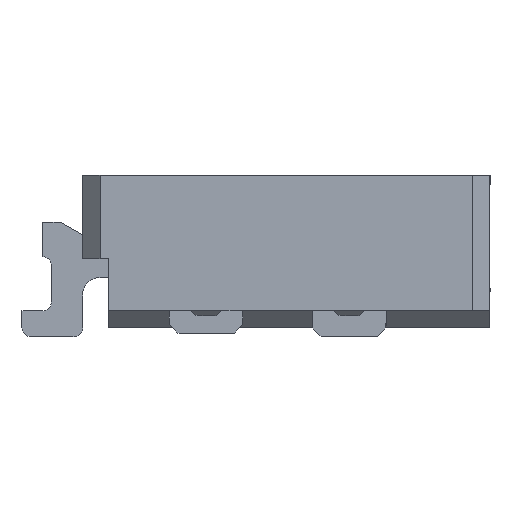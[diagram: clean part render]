
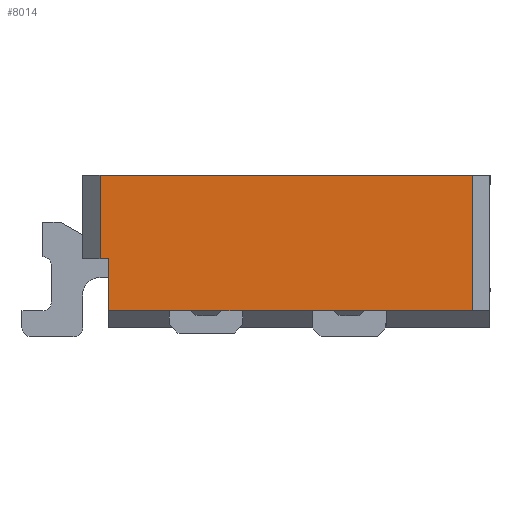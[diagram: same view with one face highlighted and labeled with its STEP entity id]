
A CAD part, front view. The second image highlights one B-rep face of the part: STEP entity #8014.
In plain terms, the highlighted planar face has unit normal (0, -1, 0).
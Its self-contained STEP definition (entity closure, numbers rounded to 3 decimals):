
#857 = PLANE ( 'NONE',  #16023 ) ;
#928 = CARTESIAN_POINT ( 'NONE',  ( -0.9, -4.65, 0.4 ) ) ;
#1247 = VERTEX_POINT ( 'NONE', #8113 ) ;
#1409 = DIRECTION ( 'NONE',  ( -1., 0., 0. ) ) ;
#1615 = LINE ( 'NONE', #12841, #8586 ) ;
#1753 = CARTESIAN_POINT ( 'NONE',  ( 1.25, -4.65, 0.88 ) ) ;
#2185 = DIRECTION ( 'NONE',  ( 0., 0., 1. ) ) ;
#2297 = ORIENTED_EDGE ( 'NONE', *, *, #9882, .F. ) ;
#2919 = VECTOR ( 'NONE', #18848, 1000. ) ;
#3121 = EDGE_CURVE ( 'NONE', #7520, #3505, #5340, .T. ) ;
#3374 = CARTESIAN_POINT ( 'NONE',  ( 0., -4.65, 0.1 ) ) ;
#3464 = EDGE_CURVE ( 'NONE', #1247, #11605, #16977, .T. ) ;
#3505 = VERTEX_POINT ( 'NONE', #16512 ) ;
#3731 = LINE ( 'NONE', #1753, #2919 ) ;
#4134 = CARTESIAN_POINT ( 'NONE',  ( -0.9, -4.65, 0. ) ) ;
#4301 = VECTOR ( 'NONE', #13052, 1000. ) ;
#5340 = LINE ( 'NONE', #3374, #9131 ) ;
#5384 = ORIENTED_EDGE ( 'NONE', *, *, #9820, .F. ) ;
#5763 = VECTOR ( 'NONE', #2185, 1000. ) ;
#6064 = ORIENTED_EDGE ( 'NONE', *, *, #11369, .F. ) ;
#6079 = LINE ( 'NONE', #4134, #5763 ) ;
#7520 = VERTEX_POINT ( 'NONE', #16984 ) ;
#8014 = ADVANCED_FACE ( 'NONE', ( #9641 ), #857, .F. ) ;
#8113 = CARTESIAN_POINT ( 'NONE',  ( -0.9, -4.65, 0.88 ) ) ;
#8586 = VECTOR ( 'NONE', #10909, 1000. ) ;
#9045 = DIRECTION ( 'NONE',  ( -1., 0., 0. ) ) ;
#9131 = VECTOR ( 'NONE', #1409, 1000. ) ;
#9372 = CARTESIAN_POINT ( 'NONE',  ( -0.85, -4.65, 0.4 ) ) ;
#9641 = FACE_OUTER_BOUND ( 'NONE', #18650, .T. ) ;
#9820 = EDGE_CURVE ( 'NONE', #3505, #15967, #1615, .T. ) ;
#9882 = EDGE_CURVE ( 'NONE', #15967, #15648, #12959, .T. ) ;
#10909 = DIRECTION ( 'NONE',  ( 0., 0., 1. ) ) ;
#11017 = CARTESIAN_POINT ( 'NONE',  ( 0., -4.65, 0.4 ) ) ;
#11369 = EDGE_CURVE ( 'NONE', #15648, #1247, #6079, .T. ) ;
#11605 = VERTEX_POINT ( 'NONE', #16845 ) ;
#12841 = CARTESIAN_POINT ( 'NONE',  ( -0.85, -4.65, 0. ) ) ;
#12959 = LINE ( 'NONE', #11017, #17916 ) ;
#12978 = EDGE_CURVE ( 'NONE', #11605, #7520, #3731, .T. ) ;
#13052 = DIRECTION ( 'NONE',  ( 1., 0., 0. ) ) ;
#14008 = DIRECTION ( 'NONE',  ( 0., 0., 1. ) ) ;
#14101 = ORIENTED_EDGE ( 'NONE', *, *, #12978, .F. ) ;
#14985 = CARTESIAN_POINT ( 'NONE',  ( 1.35, -4.65, 0.88 ) ) ;
#15648 = VERTEX_POINT ( 'NONE', #928 ) ;
#15839 = ORIENTED_EDGE ( 'NONE', *, *, #3121, .F. ) ;
#15957 = DIRECTION ( 'NONE',  ( 0., 1., 0. ) ) ;
#15967 = VERTEX_POINT ( 'NONE', #9372 ) ;
#16023 = AXIS2_PLACEMENT_3D ( 'NONE', #17930, #15957, #14008 ) ;
#16512 = CARTESIAN_POINT ( 'NONE',  ( -0.85, -4.65, 0.1 ) ) ;
#16845 = CARTESIAN_POINT ( 'NONE',  ( 1.25, -4.65, 0.88 ) ) ;
#16977 = LINE ( 'NONE', #14985, #4301 ) ;
#16984 = CARTESIAN_POINT ( 'NONE',  ( 1.25, -4.65, 0.1 ) ) ;
#17012 = ORIENTED_EDGE ( 'NONE', *, *, #3464, .F. ) ;
#17916 = VECTOR ( 'NONE', #9045, 1000. ) ;
#17930 = CARTESIAN_POINT ( 'NONE',  ( 0., -4.65, 0. ) ) ;
#18650 = EDGE_LOOP ( 'NONE', ( #14101, #17012, #6064, #2297, #5384, #15839 ) ) ;
#18848 = DIRECTION ( 'NONE',  ( 0., 0., -1. ) ) ;
